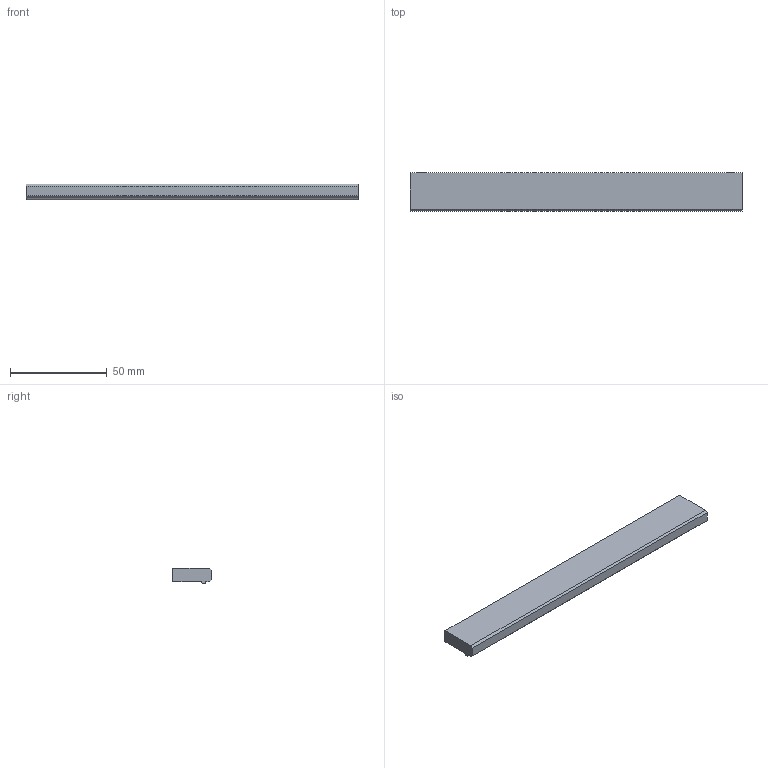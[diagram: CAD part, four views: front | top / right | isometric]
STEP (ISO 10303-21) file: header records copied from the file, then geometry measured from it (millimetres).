
FILE_DESCRIPTION( ( '' ), '1' );
FILE_NAME( 'D:/1.AUTOCAD EXPORT/Group 10/sheet_10_1/115022.stp', '2013-10-21T12:15:00', ( '' ), ( '' ), ' ', ' ', ' ' );
FILE_SCHEMA( ( 'automotive_design' ) );
Length unit declared in the file: millimetre
Products named in the file (1): 1
Bounding box: 172 x 20 x 8 mm (x, y, z)
Volume: 23977.1 mm3; surface area: 9765 mm2
Topology: 1 solids, 1 shells, 16 faces, 36 edges, 24 vertices
Faces by surface type: plane 11, cylinder 5
Entity records: 902 total; most frequent: DIRECTION 80, STYLED_ITEM 77, PRESENTATION_STYLE_ASSIGNMENT 77, CARTESIAN_POINT 77, COLOUR_RGB 77, ORIENTED_EDGE 72, EDGE_CURVE 36, CURVE_STYLE 36
